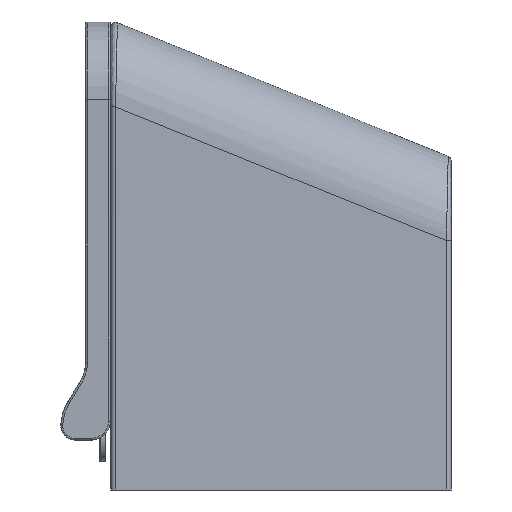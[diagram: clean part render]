
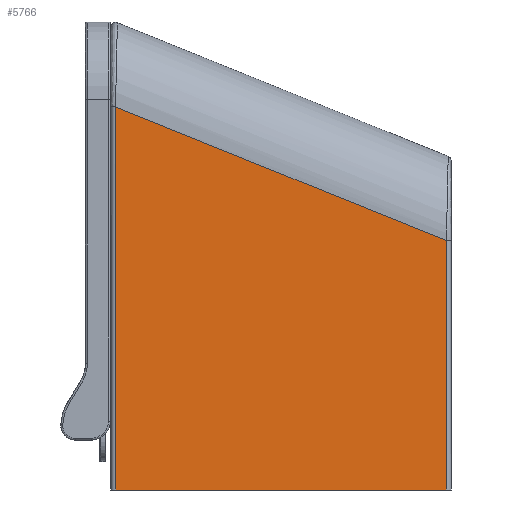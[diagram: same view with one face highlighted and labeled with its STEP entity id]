
A CAD part, left-side view. The second image highlights one B-rep face of the part: STEP entity #5766.
In plain terms, the highlighted planar face has unit normal (-1, -0.014, 0).
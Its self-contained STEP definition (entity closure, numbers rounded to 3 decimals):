
#269=B_SPLINE_CURVE_WITH_KNOTS('',3,(#12182,#12183,#12184,#12185,#12186,
#12187,#12188),.UNSPECIFIED.,.F.,.F.,(4,3,4),(-0.513,-0.509,
-0.507),.UNSPECIFIED.);
#710=FACE_OUTER_BOUND('',#1071,.T.);
#1071=EDGE_LOOP('',(#4715,#4716,#4717,#4718,#4719));
#1767=LINE('',#11376,#2142);
#1777=LINE('',#11937,#2152);
#1782=LINE('',#12194,#2157);
#1783=LINE('',#12195,#2158);
#2142=VECTOR('',#7656,10.);
#2152=VECTOR('',#7680,10.);
#2157=VECTOR('',#7705,10.);
#2158=VECTOR('',#7706,10.);
#2597=VERTEX_POINT('',#11373);
#2598=VERTEX_POINT('',#11375);
#2613=VERTEX_POINT('',#11935);
#2614=VERTEX_POINT('',#11936);
#2621=VERTEX_POINT('',#12180);
#3320=EDGE_CURVE('',#2597,#2598,#1767,.T.);
#3339=EDGE_CURVE('',#2613,#2614,#1777,.T.);
#3351=EDGE_CURVE('',#2621,#2613,#269,.T.);
#3354=EDGE_CURVE('',#2597,#2614,#1782,.T.);
#3355=EDGE_CURVE('',#2598,#2621,#1783,.T.);
#4715=ORIENTED_EDGE('',*,*,#3320,.F.);
#4716=ORIENTED_EDGE('',*,*,#3354,.T.);
#4717=ORIENTED_EDGE('',*,*,#3339,.F.);
#4718=ORIENTED_EDGE('',*,*,#3351,.F.);
#4719=ORIENTED_EDGE('',*,*,#3355,.F.);
#5521=PLANE('',#6397);
#5766=ADVANCED_FACE('',(#710),#5521,.T.);
#6397=AXIS2_PLACEMENT_3D('',#12193,#7703,#7704);
#7656=DIRECTION('',(0.,0.,1.));
#7680=DIRECTION('',(0.,0.,-1.));
#7703=DIRECTION('center_axis',(-1.,-0.014,0.));
#7704=DIRECTION('ref_axis',(0.014,-1.,0.));
#7705=DIRECTION('',(0.014,-1.,0.));
#7706=DIRECTION('',(0.013,-0.927,-0.375));
#11373=CARTESIAN_POINT('',(-169.337,-5.071,0.));
#11375=CARTESIAN_POINT('',(-169.337,-5.071,399.433));
#11376=CARTESIAN_POINT('',(-169.337,-5.071,0.));
#11935=CARTESIAN_POINT('',(-164.47,-350.071,260.059));
#11936=CARTESIAN_POINT('',(-164.47,-350.071,0.));
#11937=CARTESIAN_POINT('',(-164.47,-350.071,0.));
#12180=CARTESIAN_POINT('',(-164.471,-350.,260.073));
#12182=CARTESIAN_POINT('Ctrl Pts',(-164.471,-350.,
260.073));
#12183=CARTESIAN_POINT('Ctrl Pts',(-164.471,-350.016,260.066));
#12184=CARTESIAN_POINT('Ctrl Pts',(-164.47,-350.032,
260.062));
#12185=CARTESIAN_POINT('Ctrl Pts',(-164.47,-350.049,
260.06));
#12186=CARTESIAN_POINT('Ctrl Pts',(-164.47,-350.056,
260.059));
#12187=CARTESIAN_POINT('Ctrl Pts',(-164.47,-350.063,260.059));
#12188=CARTESIAN_POINT('Ctrl Pts',(-164.47,-350.071,
260.059));
#12193=CARTESIAN_POINT('Origin',(-169.409,0.,0.));
#12194=CARTESIAN_POINT('',(-169.409,0.,0.));
#12195=CARTESIAN_POINT('',(-167.641,-125.324,350.848));
